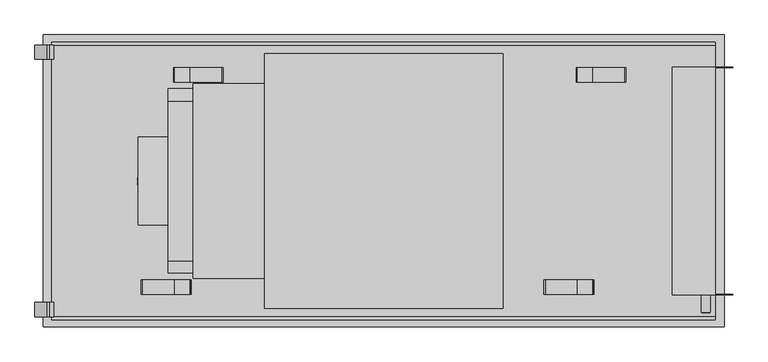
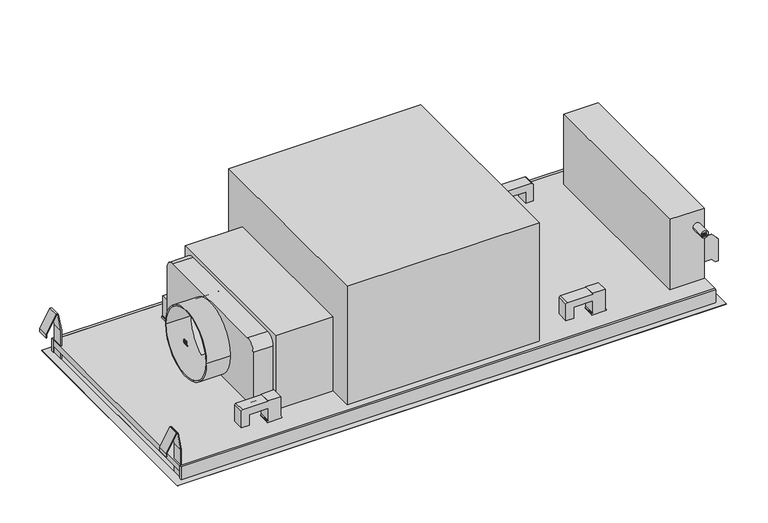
"""IFC4 building model written with IfcOpenShell, lengths in millimetres: proxy geometry, 12565890_USA_DAC2247_EDST : 28C2247S_USA_12565890_DAC2247_EDST."""

from ifc_helpers import new_model, si_unit, point, frame, frame_2d, origin, origin_with_axes, place, context, project, spatial, polyline, circle_curve, ellipse_curve, trimmed, segment, composite_curve, outline, extrude, faceted_brep, source, transform, mapped, element, save
from ifc_brep_helpers import plane_surface, cylinder_surface, revolved_surface, extruded_surface, advanced_brep


def specialty_equipment_e451ebec(model_context):
    return source(origin(), model_context, "Body", "SolidModel", [
        extrude(outline(polyline([(0.0, 0.0), (1.1495, 0.0), (1.1495, 6.3555), (0.0, 6.3555), (0.0, 7.9515), (4.18, 7.9515), (4.18, 6.3555), (3.04, 6.3555), (3.04, 2.3238752), (7.2865, 7.9515), (11.552, 2.1987777), (11.552, 6.3555), (10.3835, 6.3555), (10.3835, 7.9515), (17.9645, 7.9515), (17.9645, 6.3555), (16.758, 6.3555), (16.758, 0.0), (17.9645, 0.0), (17.9645, -1.5485), (12.179, -1.5485), (9.405, 2.014), (6.6215, -1.5485), (0.0, -1.5485), (0.0, 0.0)])), frame((-537.4682202, 221.9339142, 5.9781829), z_axis=(-0.25881904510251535, 0.0, 0.9659258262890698), x_axis=(0.0, 1.0, 0.0)), (0.0, 0.0, 1.0), 1.0),
        extrude(outline(polyline([(0.0, 0.0), (1.14, 0.0), (1.14, 6.3555), (0.0, 6.3555), (0.0, 7.9515), (7.7045, 7.9515), (7.7045, 6.3555), (6.536, 6.3555), (6.536, -1.5485), (0.0, -1.5485), (0.0, 0.0)])), frame((-537.4682202, 260.4849142, 5.9781829), z_axis=(-0.25881904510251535, 0.0, 0.9659258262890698), x_axis=(0.0, 1.0, 0.0)), (0.0, 0.0, 1.0), 1.0),
        extrude(outline(polyline([(0.0, 0.0), (1.6999427, 0.0), (1.7088618, -3.5531031), (0.012954, -3.5617037), (0.0, 0.0)])), frame((-536.5138855, 243.2139142, 6.2338962), z_axis=(-0.25881904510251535, 0.0, 0.9659258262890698), x_axis=(-0.8744764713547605, 0.42472021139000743, -0.23431526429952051)), (0.0, 0.0, 1.0), 1.0),
        extrude(outline(polyline([(0.5859016, 2.8667553), (2.1254061, 3.588992), (2.6055523, 2.5655224), (6.1317919, 4.2198077), (5.6516457, 5.2432772), (7.0965438, 5.9211306), (10.2800342, -0.8647304), (8.835136, -1.5425838), (8.3670943, -0.544916), (3.3013503, -2.921438), (0.5859016, 2.8667553)])), frame((-536.5138855, 243.2139142, 6.2338962), z_axis=(-0.25881904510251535, 0.0, 0.9659258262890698), x_axis=(-0.8744764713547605, 0.42472021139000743, -0.23431526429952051)), (0.0, 0.0, 1.0), 1.0),
        advanced_brep(
        [(-542.9739974, 253.5974142, 4.5029144), (-542.0471916, 253.5974142, 4.7512513), (-542.0471916, 259.9529142, 4.7512513), (-542.0471916, 248.8949142, 4.7512513), (-545.1487794, 251.5074142, 3.9201833), (-542.9739974, 259.7914142, 4.5029144), (-542.9739974, 256.9224142, 4.5029144), (-544.0017425, 254.6614142, 4.2275309), (-540.8726258, 253.5974142, 5.0659752), (-539.8724096, 253.5974142, 5.3339823), (-539.8724096, 255.2219142, 5.3339823), (-540.8726258, 255.2219142, 5.0659752), (-543.2328165, 253.5974142, 5.4688402), (-544.2605616, 254.6614142, 5.1934567), (-543.2328165, 256.9224142, 5.4688402), (-543.2328165, 259.7914142, 5.4688402), (-545.4075985, 251.5074142, 4.8861091), (-542.3060106, 248.8949142, 5.7171771), (-542.3060106, 259.9529142, 5.7171771), (-542.3060106, 253.5974142, 5.7171771), (-541.1314448, 253.5974142, 6.031901), (-541.1314448, 255.2219142, 6.031901), (-540.1312286, 255.2219142, 6.2999082), (-540.1312286, 253.5974142, 6.2999082)],
        [
            (0, 1),
            (1, 2),
            (2, 3, ellipse_curve(frame((-542.0471916, 254.4239142, 4.7512513), z_axis=(0.25881904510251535, 0.0, -0.9659258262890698), x_axis=(0.0, -1.0, 0.0)), 5.529, 4.5695)),
            (3, 4, circle_curve(frame((-541.7351976, 252.571466, 4.8348498), z_axis=(0.25881904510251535, 0.0, -0.9659258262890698), x_axis=(-0.9659258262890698, 0.0, -0.25881904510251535)), 3.690713)),
            (4, 5, circle_curve(frame((-539.3126556, 254.3132316, 5.483968), z_axis=(0.25881904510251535, 0.0, -0.9659258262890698), x_axis=(-0.9659258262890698, 0.0, -0.25881904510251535)), 6.6617096)),
            (5, 6),
            (6, 7, circle_curve(frame((-542.120602, 255.1257966, 4.731581), z_axis=(-0.25881904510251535, 0.0, 0.9659258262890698), x_axis=(-0.9659258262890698, 0.0, -0.25881904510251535)), 2.0021007)),
            (7, 0, circle_curve(frame((-542.9739974, 254.6614142, 4.5029144), z_axis=(-0.25881904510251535, 0.0, 0.9659258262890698), x_axis=(-0.9659258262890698, 0.0, -0.25881904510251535)), 1.064)),
            (8, 9),
            (9, 10, circle_curve(frame((-539.8724096, 254.4096642, 5.3339823), z_axis=(-0.25881904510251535, 0.0, 0.9659258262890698), x_axis=(-0.9659258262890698, 0.0, -0.25881904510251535)), 0.81225)),
            (10, 11),
            (11, 8),
            (12, 13, circle_curve(frame((-543.2328165, 254.6614142, 5.4688402), z_axis=(0.25881904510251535, 0.0, -0.9659258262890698), x_axis=(-0.9659258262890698, 0.0, -0.25881904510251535)), 1.064)),
            (13, 14, circle_curve(frame((-542.379421, 255.1257966, 5.6975068), z_axis=(0.25881904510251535, 0.0, -0.9659258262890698), x_axis=(-0.9659258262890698, 0.0, -0.25881904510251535)), 2.0021007)),
            (14, 15),
            (15, 16, circle_curve(frame((-539.5714746, 254.3132316, 6.4498938), z_axis=(-0.25881904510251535, 0.0, 0.9659258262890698), x_axis=(-0.9659258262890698, 0.0, -0.25881904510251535)), 6.6617096)),
            (16, 17, circle_curve(frame((-541.9940166, 252.571466, 5.8007756), z_axis=(-0.25881904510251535, 0.0, 0.9659258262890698), x_axis=(-0.9659258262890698, 0.0, -0.25881904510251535)), 3.690713)),
            (17, 18, ellipse_curve(frame((-542.3060106, 254.4239142, 5.7171771), z_axis=(-0.25881904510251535, 0.0, 0.9659258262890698), x_axis=(0.0, -1.0, 0.0)), 5.529, 4.5695)),
            (18, 19),
            (19, 12),
            (20, 21),
            (21, 22),
            (22, 23, circle_curve(frame((-540.1312286, 254.4096642, 6.2999082), z_axis=(0.25881904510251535, 0.0, -0.9659258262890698), x_axis=(-0.9659258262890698, 0.0, -0.25881904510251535)), 0.81225)),
            (23, 20),
            (0, 12),
            (19, 1),
            (18, 2),
            (5, 15),
            (14, 6),
            (17, 3),
            (13, 7),
            (16, 4),
            (8, 20),
            (23, 9),
            (22, 10),
            (21, 11),
        ],
        [
            plane_surface(frame((-542.0471916, 253.5974142, 4.7512513), z_axis=(0.25881904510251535, 0.0, -0.9659258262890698), x_axis=(0.9659258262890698, 0.0, 0.25881904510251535))),
            plane_surface(frame((-542.3060106, 253.5974142, 5.7171771), z_axis=(-0.25881904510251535, 0.0, 0.9659258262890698), x_axis=(-0.9659258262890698, 0.0, -0.25881904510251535))),
            plane_surface(frame((-542.9739974, 253.5974142, 4.5029144), z_axis=(0.0, 1.0000000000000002, 0.0), x_axis=(-0.2588190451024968, 0.0, 0.9659258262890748))),
            plane_surface(frame((-542.0471916, 253.5974142, 4.7512513), z_axis=(-0.9659258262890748, 0.0, -0.2588190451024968), x_axis=(-0.2588190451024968, 0.0, 0.9659258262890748))),
            plane_surface(frame((-542.9739974, 259.7914142, 4.5029144), z_axis=(0.9659258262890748, 0.0, 0.2588190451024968), x_axis=(-0.2588190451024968, 0.0, 0.9659258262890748))),
            extruded_surface(trimmed(ellipse_curve(frame((-542.5648297, 254.4239142, 6.6831029), z_axis=(0.25881904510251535, 0.0, -0.9659258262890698), x_axis=(0.0, -1.0, 0.0)), 5.529, 4.5695), [point((-542.5648297, 259.9529142, 6.6831029))], [point((-542.5648297, 248.8949142, 6.6831029))], True, "CARTESIAN"), (0.2588190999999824, 0.0, -0.9659258), 0.9999999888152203),
            revolved_surface(polyline([(-544.3133017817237, 255.1257966, 5.179325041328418), (-544.0544827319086, 255.1257966, 4.213399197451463)]), (-542.379421, 255.1257966, 5.6975068), (-0.25881904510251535, 0.0, 0.9659258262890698)),
            revolved_surface(polyline([(-544.2605615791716, 254.6614142, 5.193456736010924), (-544.0017425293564, 254.6614142, 4.227530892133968)]), (-543.2328165, 254.6614142, 5.4688402), (-0.25881904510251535, 0.0, 0.9659258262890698)),
            cylinder_surface(frame((-541.9940166, 252.571466, 5.8007756), z_axis=(0.25881904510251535, 0.0, -0.9659258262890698), x_axis=(-0.9659258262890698, 0.0, -0.25881904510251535)), 3.690713),
            cylinder_surface(frame((-539.5714746, 254.3132316, 6.4498938), z_axis=(0.25881904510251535, 0.0, -0.9659258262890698), x_axis=(-0.9659258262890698, 0.0, -0.25881904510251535)), 6.6617096),
            plane_surface(frame((-540.8726258, 253.5974142, 5.0659752), z_axis=(0.0, 1.0000000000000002, 0.0), x_axis=(-0.2588190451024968, 0.0, 0.9659258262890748))),
            revolved_surface(polyline([(-540.9158018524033, 254.4096642, 6.089682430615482), (-540.6569827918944, 254.4096642, 5.123756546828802)]), (-540.1312286, 254.4096642, 6.2999082), (-0.25881904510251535, 0.0, 0.9659258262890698)),
            plane_surface(frame((-539.8724096, 255.2219142, 5.3339823), z_axis=(0.0, -1.0000000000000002, 0.0), x_axis=(-0.2588190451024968, 0.0, 0.9659258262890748))),
            plane_surface(frame((-540.8726258, 255.2219142, 5.0659752), z_axis=(0.9659258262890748, 0.0, 0.2588190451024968), x_axis=(-0.2588190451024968, 0.0, 0.9659258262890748))),
        ],
        [
            (0, [[1, 2, 3, 4, 5, 6, 7, 8], [9, 10, 11, 12]]),
            (1, [[13, 14, 15, 16, 17, 18, 19, 20], [21, 22, 23, 24]]),
            (2, [[-1, 25, -20, 26]]),
            (3, [[-2, -26, -19, 27]]),
            (4, [[-6, 28, -15, 29]]),
            (5, [[-3, -27, -18, 30]]),
            (6, [[-7, -29, -14, 31]]),
            (7, [[-8, -31, -13, -25]]),
            (8, [[-4, -30, -17, 32]]),
            (9, [[-5, -32, -16, -28]]),
            (10, [[-9, 33, -24, 34]]),
            (11, [[-10, -34, -23, 35]]),
            (12, [[-11, -35, -22, 36]]),
            (13, [[-12, -36, -21, -33]]),
        ],
    ),
        advanced_brep(
        [(-542.9739974, 273.4239142, 4.5029144), (-542.0471916, 273.4239142, 4.7512513), (-542.0471916, 279.7794142, 4.7512513), (-542.0471916, 268.7214142, 4.7512513), (-545.1487794, 271.3339142, 3.9201833), (-542.9739974, 279.6179142, 4.5029144), (-542.9739974, 276.7489142, 4.5029144), (-544.0017425, 274.4879142, 4.2275309), (-540.8726258, 273.4239142, 5.0659752), (-539.8724096, 273.4239142, 5.3339823), (-539.8724096, 275.0484142, 5.3339823), (-540.8726258, 275.0484142, 5.0659752), (-543.2328165, 273.4239142, 5.4688402), (-544.2605616, 274.4879142, 5.1934567), (-543.2328165, 276.7489142, 5.4688402), (-543.2328165, 279.6179142, 5.4688402), (-545.4075985, 271.3339142, 4.8861091), (-542.3060106, 268.7214142, 5.7171771), (-542.3060106, 279.7794142, 5.7171771), (-542.3060106, 273.4239142, 5.7171771), (-541.1314448, 273.4239142, 6.031901), (-541.1314448, 275.0484142, 6.031901), (-540.1312286, 275.0484142, 6.2999082), (-540.1312286, 273.4239142, 6.2999082)],
        [
            (0, 1),
            (1, 2),
            (2, 3, ellipse_curve(frame((-542.0471916, 274.2504142, 4.7512513), z_axis=(0.25881904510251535, 0.0, -0.9659258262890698), x_axis=(0.0, -1.0, 0.0)), 5.529, 4.5695)),
            (3, 4, circle_curve(frame((-541.7351976, 272.397966, 4.8348498), z_axis=(0.25881904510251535, 0.0, -0.9659258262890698), x_axis=(-0.9659258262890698, 0.0, -0.25881904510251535)), 3.690713)),
            (4, 5, circle_curve(frame((-539.3126556, 274.1397316, 5.483968), z_axis=(0.25881904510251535, 0.0, -0.9659258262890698), x_axis=(-0.9659258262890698, 0.0, -0.25881904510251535)), 6.6617096)),
            (5, 6),
            (6, 7, circle_curve(frame((-542.120602, 274.9522966, 4.731581), z_axis=(-0.25881904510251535, 0.0, 0.9659258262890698), x_axis=(-0.9659258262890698, 0.0, -0.25881904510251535)), 2.0021007)),
            (7, 0, circle_curve(frame((-542.9739974, 274.4879142, 4.5029144), z_axis=(-0.25881904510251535, 0.0, 0.9659258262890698), x_axis=(-0.9659258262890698, 0.0, -0.25881904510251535)), 1.064)),
            (8, 9),
            (9, 10, circle_curve(frame((-539.8724096, 274.2361642, 5.3339823), z_axis=(-0.25881904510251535, 0.0, 0.9659258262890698), x_axis=(-0.9659258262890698, 0.0, -0.25881904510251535)), 0.81225)),
            (10, 11),
            (11, 8),
            (12, 13, circle_curve(frame((-543.2328165, 274.4879142, 5.4688402), z_axis=(0.25881904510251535, 0.0, -0.9659258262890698), x_axis=(-0.9659258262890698, 0.0, -0.25881904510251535)), 1.064)),
            (13, 14, circle_curve(frame((-542.379421, 274.9522966, 5.6975068), z_axis=(0.25881904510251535, 0.0, -0.9659258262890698), x_axis=(-0.9659258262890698, 0.0, -0.25881904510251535)), 2.0021007)),
            (14, 15),
            (15, 16, circle_curve(frame((-539.5714746, 274.1397316, 6.4498938), z_axis=(-0.25881904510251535, 0.0, 0.9659258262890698), x_axis=(-0.9659258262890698, 0.0, -0.25881904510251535)), 6.6617096)),
            (16, 17, circle_curve(frame((-541.9940166, 272.397966, 5.8007756), z_axis=(-0.25881904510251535, 0.0, 0.9659258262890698), x_axis=(-0.9659258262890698, 0.0, -0.25881904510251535)), 3.690713)),
            (17, 18, ellipse_curve(frame((-542.3060106, 274.2504142, 5.7171771), z_axis=(-0.25881904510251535, 0.0, 0.9659258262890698), x_axis=(0.0, -1.0, 0.0)), 5.529, 4.5695)),
            (18, 19),
            (19, 12),
            (20, 21),
            (21, 22),
            (22, 23, circle_curve(frame((-540.1312286, 274.2361642, 6.2999082), z_axis=(0.25881904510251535, 0.0, -0.9659258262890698), x_axis=(-0.9659258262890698, 0.0, -0.25881904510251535)), 0.81225)),
            (23, 20),
            (0, 12),
            (19, 1),
            (18, 2),
            (5, 15),
            (14, 6),
            (17, 3),
            (13, 7),
            (16, 4),
            (8, 20),
            (23, 9),
            (22, 10),
            (21, 11),
        ],
        [
            plane_surface(frame((-542.0471916, 273.4239142, 4.7512513), z_axis=(0.25881904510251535, 0.0, -0.9659258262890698), x_axis=(0.9659258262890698, 0.0, 0.25881904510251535))),
            plane_surface(frame((-542.3060106, 273.4239142, 5.7171771), z_axis=(-0.25881904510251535, 0.0, 0.9659258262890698), x_axis=(-0.9659258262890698, 0.0, -0.25881904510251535))),
            plane_surface(frame((-542.9739974, 273.4239142, 4.5029144), z_axis=(0.0, 1.0000000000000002, 0.0), x_axis=(-0.2588190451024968, 0.0, 0.9659258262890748))),
            plane_surface(frame((-542.0471916, 273.4239142, 4.7512513), z_axis=(-0.9659258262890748, 0.0, -0.2588190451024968), x_axis=(-0.2588190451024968, 0.0, 0.9659258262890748))),
            plane_surface(frame((-542.9739974, 279.6179142, 4.5029144), z_axis=(0.9659258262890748, 0.0, 0.2588190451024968), x_axis=(-0.2588190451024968, 0.0, 0.9659258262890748))),
            extruded_surface(trimmed(ellipse_curve(frame((-542.5648297, 274.2504142, 6.6831029), z_axis=(0.25881904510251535, 0.0, -0.9659258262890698), x_axis=(0.0, -1.0, 0.0)), 5.529, 4.5695), [point((-542.5648297, 279.7794142, 6.6831029))], [point((-542.5648297, 268.7214142, 6.6831029))], True, "CARTESIAN"), (0.2588190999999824, 0.0, -0.9659258), 0.9999999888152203),
            revolved_surface(polyline([(-544.3133017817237, 274.9522966, 5.179325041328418), (-544.0544827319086, 274.9522966, 4.213399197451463)]), (-542.379421, 274.9522966, 5.6975068), (-0.25881904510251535, 0.0, 0.9659258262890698)),
            revolved_surface(polyline([(-544.2605615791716, 274.4879142, 5.193456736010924), (-544.0017425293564, 274.4879142, 4.227530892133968)]), (-543.2328165, 274.4879142, 5.4688402), (-0.25881904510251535, 0.0, 0.9659258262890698)),
            cylinder_surface(frame((-541.9940166, 272.397966, 5.8007756), z_axis=(0.25881904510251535, 0.0, -0.9659258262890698), x_axis=(-0.9659258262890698, 0.0, -0.25881904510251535)), 3.690713),
            cylinder_surface(frame((-539.5714746, 274.1397316, 6.4498938), z_axis=(0.25881904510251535, 0.0, -0.9659258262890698), x_axis=(-0.9659258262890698, 0.0, -0.25881904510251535)), 6.6617096),
            plane_surface(frame((-540.8726258, 273.4239142, 5.0659752), z_axis=(0.0, 1.0000000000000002, 0.0), x_axis=(-0.2588190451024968, 0.0, 0.9659258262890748))),
            revolved_surface(polyline([(-540.9158018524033, 274.2361642, 6.089682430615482), (-540.6569827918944, 274.2361642, 5.123756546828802)]), (-540.1312286, 274.2361642, 6.2999082), (-0.25881904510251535, 0.0, 0.9659258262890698)),
            plane_surface(frame((-539.8724096, 275.0484142, 5.3339823), z_axis=(0.0, -1.0000000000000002, 0.0), x_axis=(-0.2588190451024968, 0.0, 0.9659258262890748))),
            plane_surface(frame((-540.8726258, 275.0484142, 5.0659752), z_axis=(0.9659258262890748, 0.0, 0.2588190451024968), x_axis=(-0.2588190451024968, 0.0, 0.9659258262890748))),
        ],
        [
            (0, [[1, 2, 3, 4, 5, 6, 7, 8], [9, 10, 11, 12]]),
            (1, [[13, 14, 15, 16, 17, 18, 19, 20], [21, 22, 23, 24]]),
            (2, [[-1, 25, -20, 26]]),
            (3, [[-2, -26, -19, 27]]),
            (4, [[-6, 28, -15, 29]]),
            (5, [[-3, -27, -18, 30]]),
            (6, [[-7, -29, -14, 31]]),
            (7, [[-8, -31, -13, -25]]),
            (8, [[-4, -30, -17, 32]]),
            (9, [[-5, -32, -16, -28]]),
            (10, [[-9, 33, -24, 34]]),
            (11, [[-10, -34, -23, 35]]),
            (12, [[-11, -35, -22, 36]]),
            (13, [[-12, -36, -21, -33]]),
        ],
    ),
        extrude(outline(polyline([(-204.0, 416.5106201), (-204.0, 83.4893799), (-326.0, 83.4893799), (-326.0, 416.5106201), (-204.0, 416.5106201)])), frame((0.0, 0.0, 30.0), z_axis=(0.0, 0.0, 1.0), x_axis=(1.0, 0.0, 0.0)), (0.0, 0.0, 1.0), 166.0),
        extrude(outline(polyline([(567.6935243, 445.0), (567.6935243, 55.0), (494.1000061, 55.0), (494.1000061, 445.0), (567.6935243, 445.0)])), frame((0.0, 0.0, 30.0), z_axis=(0.0, 0.0, 1.0), x_axis=(1.0, 0.0, 0.0)), (0.0, 0.0, 1.0), 157.6000061),
        advanced_brep(
        [(-326.0, 407.6883545, 67.4832764), (-326.0, 407.6883545, 168.5167236), (-326.0, 387.0167236, 189.1883545), (-326.0, 112.9832764, 189.1883545), (-326.0, 92.3116455, 168.5167236), (-326.0, 92.3116455, 67.4832764), (-326.0, 112.9832764, 46.8116455), (-326.0, 211.5404146, 46.8116455), (-326.0, 288.4595854, 46.8116455), (-326.0, 387.0167236, 46.8116455), (-326.0, 322.0, 111.2000008), (-326.0, 282.2201755, 46.8116455), (-326.0, 217.7798245, 46.8116455), (-326.0, 178.0, 111.2000008), (-368.7057465, 407.6883545, 67.4832764), (-368.7057465, 387.0167236, 46.8116455), (-368.7057465, 288.4595854, 46.8116455), (-368.7057465, 325.0, 111.2000008), (-368.7057465, 175.0, 111.2000008), (-368.7057465, 211.5404146, 46.8116455), (-368.7057465, 112.9832764, 46.8116455), (-368.7057465, 92.3116455, 67.4832764), (-368.7057465, 92.3116455, 168.5167236), (-368.7057465, 112.9832764, 189.1883545), (-368.7057465, 387.0167236, 189.1883545), (-368.7057465, 407.6883545, 168.5167236), (-420.0, 175.0, 111.2000008), (-420.0, 325.0, 111.2000008), (-420.0, 178.0, 111.2000008), (-420.0, 322.0, 111.2000008), (-368.7057465, 322.0, 111.2000008), (-368.7057465, 178.0, 111.2000008), (-368.7057465, 217.7798245, 46.8116455), (-368.7057465, 282.2201755, 46.8116455)],
        [
            (0, 1),
            (1, 2, circle_curve(frame((-326.0, 387.0167236, 168.5167236), z_axis=(1.0, 0.0, 0.0), x_axis=(0.0, 1.0, 0.0)), 20.6716309)),
            (2, 3),
            (3, 4, circle_curve(frame((-326.0, 112.9832764, 168.5167236), z_axis=(1.0, 0.0, 0.0), x_axis=(0.0, 1.0, 0.0)), 20.6716309)),
            (4, 5),
            (5, 6, circle_curve(frame((-326.0, 112.9832764, 67.4832764), z_axis=(1.0, 0.0, 0.0), x_axis=(0.0, 1.0, 0.0)), 20.6716309)),
            (6, 7),
            (7, 8, circle_curve(frame((-326.0, 250.0, 111.2000008), z_axis=(1.0, 0.0, 0.0), x_axis=(0.0, 1.0, 0.0)), 75.0)),
            (8, 9),
            (9, 0, circle_curve(frame((-326.0, 387.0167236, 67.4832764), z_axis=(1.0, 0.0, 0.0), x_axis=(0.0, 1.0, 0.0)), 20.6716309)),
            (10, 11, circle_curve(frame((-326.0, 250.0, 111.2000008), z_axis=(-1.0, 0.0, 0.0), x_axis=(0.0, 1.0, 0.0)), 72.0)),
            (11, 12, circle_curve(frame((-326.0, 250.0, 111.2000008), z_axis=(-1.0, 0.0, 0.0), x_axis=(0.0, 1.0, 0.0)), 72.0)),
            (12, 13, circle_curve(frame((-326.0, 250.0, 111.2000008), z_axis=(-1.0, 0.0, 0.0), x_axis=(0.0, 1.0, 0.0)), 72.0)),
            (13, 10, circle_curve(frame((-326.0, 250.0, 111.2000008), z_axis=(-1.0, 0.0, 0.0), x_axis=(0.0, 1.0, 0.0)), 72.0)),
            (14, 15, circle_curve(frame((-368.7057465, 387.0167236, 67.4832764), z_axis=(-1.0, 0.0, 0.0), x_axis=(0.0, 1.0, 0.0)), 20.6716309)),
            (15, 16),
            (16, 17, circle_curve(frame((-368.7057465, 250.0, 111.2000008), z_axis=(1.0, 0.0, 0.0), x_axis=(0.0, 1.0, 0.0)), 75.0)),
            (17, 18, circle_curve(frame((-368.7057465, 250.0, 111.2000008), z_axis=(1.0, 0.0, 0.0), x_axis=(0.0, 1.0, 0.0)), 75.0)),
            (18, 19, circle_curve(frame((-368.7057465, 250.0, 111.2000008), z_axis=(1.0, 0.0, 0.0), x_axis=(0.0, 1.0, 0.0)), 75.0)),
            (19, 20),
            (20, 21, circle_curve(frame((-368.7057465, 112.9832764, 67.4832764), z_axis=(-1.0, 0.0, 0.0), x_axis=(0.0, 1.0, 0.0)), 20.6716309)),
            (21, 22),
            (22, 23, circle_curve(frame((-368.7057465, 112.9832764, 168.5167236), z_axis=(-1.0, 0.0, 0.0), x_axis=(0.0, 1.0, 0.0)), 20.6716309)),
            (23, 24),
            (24, 25, circle_curve(frame((-368.7057465, 387.0167236, 168.5167236), z_axis=(-1.0, 0.0, 0.0), x_axis=(0.0, 1.0, 0.0)), 20.6716309)),
            (25, 14),
            (0, 14),
            (25, 1),
            (24, 2),
            (23, 3),
            (22, 4),
            (21, 5),
            (20, 6),
            (19, 7),
            (15, 9),
            (8, 16),
            (26, 27, circle_curve(frame((-420.0, 250.0, 111.2000008), z_axis=(-1.0, 0.0, 0.0), x_axis=(0.0, 1.0, 0.0)), 75.0)),
            (27, 26, circle_curve(frame((-420.0, 250.0, 111.2000008), z_axis=(-1.0, 0.0, 0.0), x_axis=(0.0, 1.0, 0.0)), 75.0)),
            (28, 29, circle_curve(frame((-420.0, 250.0, 111.2000008), z_axis=(1.0, 0.0, 0.0), x_axis=(0.0, 1.0, 0.0)), 72.0)),
            (29, 28, circle_curve(frame((-420.0, 250.0, 111.2000008), z_axis=(1.0, 0.0, 0.0), x_axis=(0.0, 1.0, 0.0)), 72.0)),
            (27, 17),
            (18, 26),
            (29, 30),
            (30, 31, circle_curve(frame((-368.7057465, 250.0, 111.2000008), z_axis=(1.0, 0.0, 0.0), x_axis=(0.0, 1.0, 0.0)), 72.0)),
            (31, 28),
            (31, 32, circle_curve(frame((-368.7057465, 250.0, 111.2000008), z_axis=(1.0, 0.0, 0.0), x_axis=(0.0, 1.0, 0.0)), 72.0)),
            (32, 12),
            (11, 33),
            (33, 30, circle_curve(frame((-368.7057465, 250.0, 111.2000008), z_axis=(1.0, 0.0, 0.0), x_axis=(0.0, 1.0, 0.0)), 72.0)),
            (31, 13),
            (10, 30),
        ],
        [
            plane_surface(frame((-326.0, 407.6883545, 168.5167236), z_axis=(1.0, 0.0, 0.0), x_axis=(0.0, 0.0, 1.0))),
            plane_surface(frame((-368.7057465, 407.6883545, 168.5167236), z_axis=(-1.0, 0.0, 0.0), x_axis=(0.0, 0.0, -1.0))),
            plane_surface(frame((-326.0, 407.6883545, 67.4832764), z_axis=(0.0, 1.0, 0.0), x_axis=(-1.0, 0.0, 0.0))),
            cylinder_surface(frame((-368.7057465, 387.0167236, 168.5167236), z_axis=(1.0, 0.0, 0.0), x_axis=(0.0, 1.0, 0.0)), 20.6716309),
            plane_surface(frame((-326.0, 387.0167236, 189.1883545), z_axis=(0.0, 0.0, 1.0), x_axis=(-1.0, 0.0, 0.0))),
            cylinder_surface(frame((-368.7057465, 112.9832764, 168.5167236), z_axis=(1.0, 0.0, 0.0), x_axis=(0.0, 1.0, 0.0)), 20.6716309),
            plane_surface(frame((-326.0, 92.3116455, 168.5167236), z_axis=(0.0, -1.0, 0.0), x_axis=(-1.0, 0.0, 0.0))),
            cylinder_surface(frame((-368.7057465, 112.9832764, 67.4832764), z_axis=(1.0, 0.0, 0.0), x_axis=(0.0, 1.0, 0.0)), 20.6716309),
            plane_surface(frame((-326.0, 112.9832764, 46.8116455), z_axis=(0.0, 0.0, -1.0), x_axis=(-1.0, 0.0, 0.0))),
            cylinder_surface(frame((-368.7057465, 387.0167236, 67.4832764), z_axis=(1.0, 0.0, 0.0), x_axis=(0.0, 1.0, 0.0)), 20.6716309),
            plane_surface(frame((-420.0, 325.0, 111.2000008), z_axis=(-1.0, 0.0, 0.0), x_axis=(0.0, 0.0, -1.0))),
            cylinder_surface(frame((-420.0, 250.0, 111.2000008), z_axis=(1.0, 0.0, 0.0), x_axis=(0.0, 1.0, 0.0)), 75.0),
            revolved_surface(polyline([(-420.0, 322.0, 111.2000008), (-368.7057465, 322.0, 111.2000008)]), (0.0, 250.0, 111.2000008), (-1.0, 0.0, 0.0)),
            revolved_surface(polyline([(-420.0, 322.0, 111.2000008), (-326.0, 322.0, 111.2000008)]), (0.0, 250.0, 111.2000008), (-1.0, 0.0, 0.0)),
            revolved_surface(polyline([(-326.0, 322.0, 111.2000008), (-368.7057465, 322.0, 111.2000008)]), (-420.0, 250.0, 111.2000008), (1.0, 0.0, 0.0)),
        ],
        [
            (0, [[1, 2, 3, 4, 5, 6, 7, 8, 9, 10], [11, 12, 13, 14]]),
            (1, [[15, 16, 17, 18, 19, 20, 21, 22, 23, 24, 25, 26]]),
            (2, [[-1, 27, -26, 28]]),
            (3, [[-2, -28, -25, 29]]),
            (4, [[-3, -29, -24, 30]]),
            (5, [[-4, -30, -23, 31]]),
            (6, [[-5, -31, -22, 32]]),
            (7, [[-6, -32, -21, 33]]),
            (8, [[-33, -20, 34, -7]]),
            (8, [[35, -9, 36, -16]]),
            (9, [[-10, -35, -15, -27]]),
            (10, [[37, 38], [39, 40]]),
            (11, [[-38, 41, -17, -36, -8, -34, -19, 42]]),
            (11, [[-37, -42, -18, -41]]),
            (12, [[-40, 43, 44, 45]]),
            (13, [[-39, -45, 46, 47, -12, 48, 49, -43]]),
            (14, [[50, -13, -47, -46]]),
            (14, [[51, -49, -48, -11]]),
            (14, [[-50, -44, -51, -14]]),
        ],
    ),
        extrude(outline(polyline([(204.0, 32.1999969), (-204.0, 32.1999969), (-204.0, 467.8000031), (204.0, 467.8000031), (204.0, 32.1999969)])), frame((0.0, 0.0, 30.0), z_axis=(0.0, 0.0, 1.0), x_axis=(1.0, 0.0, 0.0)), (0.0, 0.0, 1.0), 266.0),
        extrude(outline(polyline([(122.8000031, 583.0), (122.8000031, 567.6935243), (66.8000031, 567.6935243), (66.8000031, 583.0), (58.7999992, 591.0000038), (58.7999992, 597.0), (108.8000031, 597.0), (122.8000031, 583.0)])), frame((0.0, 55.0, 0.0), z_axis=(0.0, 1.0, 0.0), x_axis=(0.0, 0.0, 1.0)), (0.0, 0.0, 1.0), 0.8000031),
        extrude(outline(polyline([(122.8000031, 583.0), (122.8000031, 567.6935243), (66.8000031, 567.6935243), (66.8000031, 583.0), (58.7999992, 591.0000038), (58.7999992, 597.0), (108.8000031, 597.0), (122.8000031, 583.0)])), frame((0.0, 444.0, 0.0), z_axis=(0.0, 1.0, 0.0), x_axis=(0.0, 0.0, 1.0)), (0.0, 0.0, 1.0), 1.0),
        extrude(outline(polyline([(0.8, -564.0250244), (64.8559268, -564.0250244), (103.4362253, -570.827772), (104.1754532, -575.0201416), (66.657778, -596.5250244), (58.5929146, -596.5250244), (58.5929146, -595.2750244), (66.3249664, -595.2750244), (103.5504532, -573.9376221), (103.1458864, -572.0883804), (64.5054245, -565.2750244), (0.8, -565.2750244), (0.8, -564.0250244)])), frame((0.0, 17.8, 0.0), z_axis=(0.0, 1.0, 0.0), x_axis=(0.0, 0.0, 1.0)), (0.0, 0.0, 1.0), 24.0),
        extrude(outline(polyline([(0.8, -564.0250244), (64.8559268, -564.0250244), (103.4362253, -570.827772), (104.1754532, -575.0201416), (66.657778, -596.5250244), (58.5929146, -596.5250244), (58.5929146, -595.2750244), (66.3249664, -595.2750244), (103.5504532, -573.9376221), (103.1458864, -572.0883804), (64.5054245, -565.2750244), (0.8, -565.2750244), (0.8, -564.0250244)])), frame((0.0, 458.2, 0.0), z_axis=(0.0, 1.0, 0.0), x_axis=(0.0, 0.0, 1.0)), (0.0, 0.0, 1.0), 24.0),
        extrude(outline(polyline([(37.2999992, -414.4500122), (37.2999992, -398.4500122), (61.7999992, -398.4500122), (61.7999992, -357.4500122), (34.0, -357.4500122), (34.0, -358.4500122), (33.0, -359.4500122), (30.0, -359.4500122), (30.0, -329.4500122), (33.0, -329.4500122), (34.0, -330.4500122), (34.0, -331.4500122), (78.3000031, -331.4500122), (78.3000031, -357.4500122), (76.8000031, -357.4500122), (76.8000031, -411.9500122), (74.3000031, -414.4500122), (37.2999992, -414.4500122)])), frame((0.0, 55.8000031, 0.0), z_axis=(0.0, 1.0, 0.0), x_axis=(0.0, 0.0, 1.0)), (0.0, 0.0, 1.0), 25.1139038),
        extrude(outline(polyline([(37.2999992, -274.4499817), (74.3000031, -274.4499817), (76.8000031, -276.9499817), (76.8000031, -331.4499817), (78.3000031, -331.4499817), (78.3000031, -357.4499817), (34.0, -357.4499817), (34.0, -358.4499817), (33.0, -359.4499817), (30.0, -359.4499817), (30.0, -329.4499817), (33.0, -329.4499817), (34.0, -330.4499817), (34.0, -331.4499817), (61.7999992, -331.4499817), (61.7999992, -290.4499817), (37.2999992, -290.4499817), (37.2999992, -274.4499817)])), frame((0.0, 419.0860931, 0.0), z_axis=(0.0, 1.0, 0.0), x_axis=(0.0, 0.0, 1.0)), (0.0, 0.0, 1.0), 25.1139038),
        extrude(outline(polyline([(37.2999992, 274.4500122), (37.2999992, 290.4500122), (61.7999992, 290.4500122), (61.7999992, 331.4500122), (34.0, 331.4500122), (34.0, 330.4500122), (33.0, 329.4500122), (30.0, 329.4500122), (30.0, 359.4500122), (33.0, 359.4500122), (34.0, 358.4500122), (34.0, 357.4500122), (78.3000031, 357.4500122), (78.3000031, 331.4500122), (76.8000031, 331.4500122), (76.8000031, 276.9500122), (74.3000031, 274.4500122), (37.2999992, 274.4500122)])), frame((0.0, 55.8000031, 0.0), z_axis=(0.0, 1.0, 0.0), x_axis=(0.0, 0.0, 1.0)), (0.0, 0.0, 1.0), 25.1139038),
        extrude(outline(polyline([(37.2999992, 414.4500122), (74.3000031, 414.4500122), (76.8000031, 411.9500122), (76.8000031, 357.4500122), (78.3000031, 357.4500122), (78.3000031, 331.4500122), (34.0, 331.4500122), (34.0, 330.4500122), (33.0, 329.4500122), (30.0, 329.4500122), (30.0, 359.4500122), (33.0, 359.4500122), (34.0, 358.4500122), (34.0, 357.4500122), (61.7999992, 357.4500122), (61.7999992, 398.4500122), (37.2999992, 398.4500122), (37.2999992, 414.4500122)])), frame((0.0, 419.0860931, 0.0), z_axis=(0.0, 1.0, 0.0), x_axis=(0.0, 0.0, 1.0)), (0.0, 0.0, 1.0), 25.1139038),
        extrude(outline(composite_curve([segment(trimmed(circle_curve(frame_2d((152.6000061, 551.1768188)), 8.0), [point((152.6000061, 543.1768188))], [point((152.6000061, 559.1768188))], False, "CARTESIAN"), True, "CONTINUOUS"), segment(trimmed(circle_curve(frame_2d((152.6000061, 551.1768188)), 8.0), [point((152.6000061, 559.1768188))], [point((152.6000061, 543.1768188))], False, "CARTESIAN"), True, "CONTINUOUS")], self_intersect=False)), frame((0.0, 25.0, 0.0), z_axis=(0.0, 1.0, 0.0), x_axis=(0.0, 0.0, 1.0)), (0.0, 0.0, 1.0), 30.0),
        extrude(outline(polyline([(148.6000061, 545.2750106), (148.6000061, 551.1768188), (149.6045692, 551.1768188), (149.6045692, 546.2795737), (152.2415473, 546.2795737), (152.2415473, 550.8001077), (153.2461104, 550.8001077), (153.2461104, 546.2795737), (155.6319478, 546.2795737), (155.6319478, 551.0512485), (156.6365109, 551.0512485), (156.6365109, 545.2750106), (148.6000061, 545.2750106)])), frame((0.0, 24.0, 0.0), z_axis=(0.0, 1.0, 0.0), x_axis=(0.0, 0.0, 1.0)), (0.0, 0.0, 1.0), 1.0),
        extrude(outline(polyline([(148.6000061, 552.6836635), (148.6000061, 557.706479), (149.6045692, 557.706479), (149.6045692, 553.6882266), (156.6365109, 553.6882266), (156.6365109, 552.6836635), (148.6000061, 552.6836635)])), frame((0.0, 24.0, 0.0), z_axis=(0.0, 1.0, 0.0), x_axis=(0.0, 0.0, 1.0)), (0.0, 0.0, 1.0), 1.0),
        extrude(outline(polyline([(250.9417779, 117.0365048), (250.9417779, 112.4355273), (251.4499456, 110.4067807), (253.1510319, 109.8789927), (254.3321784, 110.1458298), (255.0130053, 110.9041572), (255.2111711, 112.4355273), (255.2111711, 117.0365048), (256.2157342, 117.0365048), (256.2157342, 112.4002107), (255.9106374, 110.3881414), (254.89234, 109.262913), (253.0568541, 108.8744296), (251.1929187, 109.3207931), (250.209938, 110.4783951), (249.9372148, 112.4002107), (249.9372148, 117.0365048), (250.9417779, 117.0365048)])), frame((-421.0, 0.0, 0.0), z_axis=(1.0, 0.0, 0.0), x_axis=(0.0, 1.0, 0.0)), (0.0, 0.0, 1.0), 1.0),
        extrude(outline(polyline([(248.1792294, 109.0), (243.1564139, 109.0), (243.1564139, 110.0045631), (247.1746663, 110.0045631), (247.1746663, 117.0365048), (248.1792294, 117.0365048), (248.1792294, 109.0)])), frame((-421.0, 0.0, 0.0), z_axis=(1.0, 0.0, 0.0), x_axis=(0.0, 1.0, 0.0)), (0.0, 0.0, 1.0), 1.0),
        extrude(outline(polyline([(582.5, 500.0), (582.5, 0.0), (-582.5, 0.0), (-582.5, 500.0), (582.5, 500.0)]), holes=[polyline([(562.5, 482.6999969), (-564.7000122, 482.6999969), (-564.7000122, 17.3000031), (562.5, 17.3000031), (562.5, 482.6999969)])]), origin_with_axes(), (0.0, 0.0, 1.0), 0.8),
        faceted_brep([(564.2615168, 17.3000031, 0.0), (564.4698455, 17.3000031, 0.7723983), (561.2954399, 17.3000031, 0.8), (-564.4698448, 17.3000031, 0.772397), (-564.2615112, 17.3000031, 0.0), (-561.2955102, 17.3000031, 0.8), (-564.2615112, 482.6999969, 0.0), (-564.4698448, 482.6999969, 0.772397), (-561.2955102, 482.6999969, 0.8), (564.4698455, 482.6999969, 0.7723983), (564.2615168, 482.6999969, 0.0), (561.2954399, 482.6999969, 0.8), (-504.3279114, 17.3000031, 16.1654968), (-504.3279114, 482.6999969, 16.1654968), (504.3263838, 482.6999969, 16.1654968), (504.3263838, 17.3000031, 16.1654968), (498.7323914, 197.7705688, 16.1654968), (487.1442261, 197.7705688, 16.1654968), (487.1442261, 171.9410553, 16.1654968), (498.7323914, 171.9410553, 16.1654968), (498.7323914, 224.0850792, 16.1654968), (498.7323914, 275.9145947, 16.1654968), (487.1442261, 275.9145947, 16.1654968), (487.1442261, 224.0850792, 16.1654968), (498.7323914, 276.1570797, 16.1654968), (498.7323914, 301.9865952, 16.1654968), (487.1442261, 301.9865952, 16.1654968), (487.1442261, 276.1570797, 16.1654968), (498.7323914, 302.2290802, 16.1654968), (498.7323914, 328.0585937, 16.1654968), (487.1442261, 328.0585937, 16.1654968), (487.1442261, 302.2290802, 16.1654968), (498.7323914, 198.0130539, 16.1654968), (498.7323914, 223.8425694, 16.1654968), (487.1442261, 223.8425694, 16.1654968), (487.1442261, 198.0130539, 16.1654968), (504.4323766, 482.6999969, 16.9654968), (504.4323766, 17.3000031, 16.9654968), (-504.4339068, 482.6999969, 16.9654968), (-504.4339068, 17.3000031, 16.9654968), (567.6935243, 487.8000031, 0.8), (567.6935243, 487.8000031, 30.0), (567.6935243, 482.6999969, 30.0), (567.6935243, 482.6999969, 0.8), (-567.6935243, 487.8000031, 0.8), (-567.6935243, 482.6999969, 0.8), (-567.6935243, 482.6999969, 30.0), (-567.6935243, 487.8000031, 30.0), (567.6935243, 12.1999969, 0.8), (567.6935243, 17.3000031, 0.8), (567.6935243, 17.3000031, 30.0), (567.6935243, 12.1999969, 30.0), (-567.6935243, 12.1999969, 0.8), (-567.6935243, 12.1999969, 30.0), (-567.6935243, 17.3000031, 30.0), (-567.6935243, 17.3000031, 0.8), (487.1442261, 302.2290802, 14.6286736), (498.7323914, 302.2290802, 14.6286736), (487.1442261, 328.0585937, 14.6286736), (498.7323914, 328.0585937, 14.6286736), (487.1442261, 276.1570797, 14.6286736), (498.7323914, 276.1570797, 14.6286736), (487.1442261, 301.9865952, 14.6286736), (498.7323914, 301.9865952, 14.6286736), (487.1442261, 224.0850792, 14.6286736), (498.7323914, 224.0850792, 14.6286736), (498.7323914, 197.7705688, 14.6286736), (498.7323914, 171.9410553, 14.6286736), (487.1442261, 171.9410553, 14.6286736), (487.1442261, 197.7705688, 14.6286736), (498.7323914, 198.0130539, 14.6286736), (487.1442261, 198.0130539, 14.6286736), (487.1442261, 223.8425694, 14.6286736), (498.7323914, 223.8425694, 14.6286736), (487.1442261, 275.9145947, 14.6286736), (498.7323914, 275.9145947, 14.6286736)], [[[0, 1, 2]], [[3, 4, 5]], [[6, 7, 8]], [[9, 10, 11]], [[12, 13, 14, 15], [16, 17, 18, 19], [20, 21, 22, 23], [24, 25, 26, 27], [28, 29, 30, 31], [32, 33, 34, 35]], [[15, 14, 11, 10, 0, 2]], [[1, 0, 10, 9]], [[1, 9, 36, 37]], [[37, 36, 38, 39]], [[39, 38, 7, 3]], [[4, 3, 7, 6]], [[13, 12, 5, 4, 6, 8]], [[40, 41, 42, 43]], [[44, 45, 46, 47]], [[41, 40, 44, 47]], [[42, 41, 47, 46]], [[43, 42, 46, 45, 7, 38, 36, 9]], [[8, 11, 14, 13]], [[40, 43, 9, 11, 8, 7, 45, 44]], [[48, 49, 50, 51]], [[52, 53, 54, 55]], [[48, 51, 53, 52]], [[51, 50, 54, 53]], [[50, 49, 1, 37, 39, 3, 55, 54]], [[2, 5, 12, 15]], [[49, 48, 52, 55, 3, 5, 2, 1]], [[56, 57, 28, 31]], [[58, 56, 31, 30]], [[59, 58, 30, 29]], [[57, 59, 29, 28]], [[60, 61, 24, 27]], [[62, 60, 27, 26]], [[63, 62, 26, 25]], [[61, 63, 25, 24]], [[64, 65, 20, 23]], [[66, 67, 68, 69]], [[70, 71, 72, 73]], [[61, 60, 62, 63]], [[65, 64, 74, 75]], [[57, 56, 58, 59]], [[66, 69, 17, 16]], [[67, 66, 16, 19]], [[71, 70, 32, 35]], [[75, 74, 22, 21]], [[69, 68, 18, 17]], [[68, 67, 19, 18]], [[70, 73, 33, 32]], [[73, 72, 34, 33]], [[72, 71, 35, 34]], [[65, 75, 21, 20]], [[74, 64, 23, 22]]]),
        extrude(outline(polyline([(567.6935243, 482.6999969), (567.6935243, 17.3000031), (-567.6935243, 17.3000031), (-567.6935243, 482.6999969), (567.6935243, 482.6999969)])), frame((0.0, 0.0, 16.9654968), z_axis=(0.0, 0.0, 1.0), x_axis=(1.0, 0.0, 0.0)), (0.0, 0.0, 1.0), 13.0345032),
        extrude(outline(polyline([(482.5, 462.4152985), (482.5, 37.5847015), (-482.5, 37.5847015), (-482.5, 462.4152985), (482.5, 462.4152985)])), frame((0.0, 0.0, 0.8), z_axis=(0.0, 0.0, 1.0), x_axis=(1.0, 0.0, 0.0)), (0.0, 0.0, 1.0), 13.8286735),
    ])


if __name__ == "__main__":
    model = new_model("IFC4")
    model_context = context("Model", 3, world=origin())
    ifc_project = project(units=[si_unit("LENGTHUNIT", "METRE", prefix="MILLI")], contexts=[model_context])
    site = spatial("IfcSite", under=ifc_project)
    building = spatial("IfcBuilding", under=site)
    placement = place(None, origin())
    specialty_equipment_shape = specialty_equipment_e451ebec(model_context)
    element("IfcBuildingElementProxy", 1, Name="12565890_USA_DAC2247_EDST : 28C2247S_USA_12565890_DAC2247_EDST", ObjectType="12565890_USA_DAC2247_EDST : 28C2247S_USA_12565890_DAC2247_EDST", at=placement, inside=building, context=model_context, shape_type="MappedRepresentation", body=[
        mapped(specialty_equipment_shape, transform((0.0, 0.0, 0.0), x_axis=(1.0, 0.0, 0.0), y_axis=(0.0, 1.0, 0.0), z_axis=(0.0, 0.0, 1.0))),
    ])
    save(model, "model.ifc")
